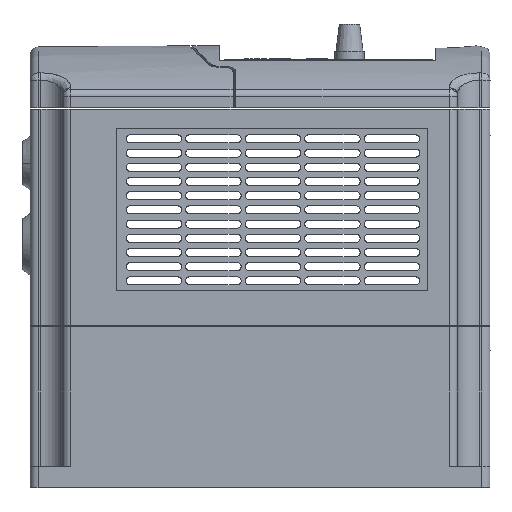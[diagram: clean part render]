
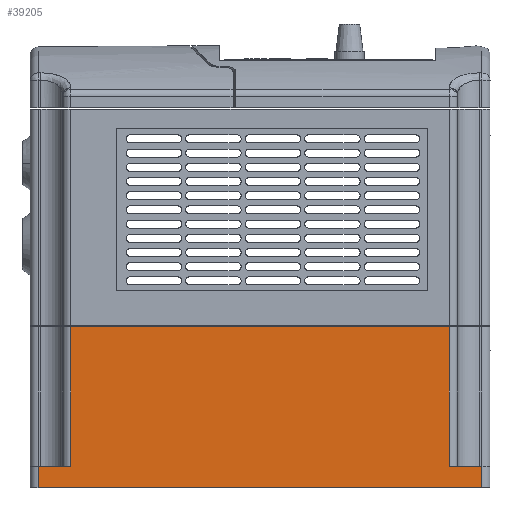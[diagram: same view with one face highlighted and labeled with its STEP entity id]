
A CAD part, left-side view. The second image highlights one B-rep face of the part: STEP entity #39205.
In plain terms, the highlighted planar face has unit normal (-1, 0, 0).
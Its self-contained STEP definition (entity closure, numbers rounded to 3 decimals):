
#4375=FACE_OUTER_BOUND('',#5904,.T.);
#5904=EDGE_LOOP('',(#35701,#35702,#35703,#35704,#35705,#35706,#35707,#35708));
#10699=LINE('',#103242,#15379);
#10700=LINE('',#103244,#15380);
#10701=LINE('',#103246,#15381);
#10702=LINE('',#103248,#15382);
#10703=LINE('',#103250,#15383);
#10704=LINE('',#103252,#15384);
#10705=LINE('',#103254,#15385);
#10706=LINE('',#103255,#15386);
#15379=VECTOR('',#51318,10.);
#15380=VECTOR('',#51319,10.);
#15381=VECTOR('',#51320,10.);
#15382=VECTOR('',#51321,10.);
#15383=VECTOR('',#51322,10.);
#15384=VECTOR('',#51323,10.);
#15385=VECTOR('',#51324,10.);
#15386=VECTOR('',#51325,10.);
#21741=VERTEX_POINT('',#103240);
#21742=VERTEX_POINT('',#103241);
#21743=VERTEX_POINT('',#103243);
#21744=VERTEX_POINT('',#103245);
#21745=VERTEX_POINT('',#103247);
#21746=VERTEX_POINT('',#103249);
#21747=VERTEX_POINT('',#103251);
#21748=VERTEX_POINT('',#103253);
#28721=EDGE_CURVE('',#21741,#21742,#10699,.T.);
#28722=EDGE_CURVE('',#21742,#21743,#10700,.T.);
#28723=EDGE_CURVE('',#21743,#21744,#10701,.T.);
#28724=EDGE_CURVE('',#21744,#21745,#10702,.T.);
#28725=EDGE_CURVE('',#21745,#21746,#10703,.T.);
#28726=EDGE_CURVE('',#21746,#21747,#10704,.T.);
#28727=EDGE_CURVE('',#21747,#21748,#10705,.T.);
#28728=EDGE_CURVE('',#21748,#21741,#10706,.T.);
#35701=ORIENTED_EDGE('',*,*,#28721,.T.);
#35702=ORIENTED_EDGE('',*,*,#28722,.T.);
#35703=ORIENTED_EDGE('',*,*,#28723,.T.);
#35704=ORIENTED_EDGE('',*,*,#28724,.T.);
#35705=ORIENTED_EDGE('',*,*,#28725,.T.);
#35706=ORIENTED_EDGE('',*,*,#28726,.T.);
#35707=ORIENTED_EDGE('',*,*,#28727,.T.);
#35708=ORIENTED_EDGE('',*,*,#28728,.T.);
#38140=PLANE('',#43742);
#39205=ADVANCED_FACE('',(#4375),#38140,.T.);
#43742=AXIS2_PLACEMENT_3D('',#103239,#51316,#51317);
#51316=DIRECTION('center_axis',(-1.,0.,0.));
#51317=DIRECTION('ref_axis',(0.,0.,1.));
#51318=DIRECTION('',(0.,0.,1.));
#51319=DIRECTION('',(0.,1.,0.));
#51320=DIRECTION('',(0.,0.,-1.));
#51321=DIRECTION('',(0.,1.,0.));
#51322=DIRECTION('',(0.,0.,-1.));
#51323=DIRECTION('',(0.,-1.,0.));
#51324=DIRECTION('',(0.,0.,1.));
#51325=DIRECTION('',(0.,1.,0.));
#103239=CARTESIAN_POINT('Origin',(-62.5,0.,-2.976));
#103240=CARTESIAN_POINT('',(-62.5,-70.,8.));
#103241=CARTESIAN_POINT('',(-62.5,-70.,59.517));
#103242=CARTESIAN_POINT('',(-62.5,-70.,8.));
#103243=CARTESIAN_POINT('',(-62.5,70.,59.517));
#103244=CARTESIAN_POINT('',(-62.5,-70.,59.517));
#103245=CARTESIAN_POINT('',(-62.5,70.,8.));
#103246=CARTESIAN_POINT('',(-62.5,70.,59.517));
#103247=CARTESIAN_POINT('',(-62.5,82.,8.));
#103248=CARTESIAN_POINT('',(-62.5,70.,8.));
#103249=CARTESIAN_POINT('',(-62.5,82.,0.));
#103250=CARTESIAN_POINT('',(-62.5,82.,8.));
#103251=CARTESIAN_POINT('',(-62.5,-82.,0.));
#103252=CARTESIAN_POINT('',(-62.5,82.,0.));
#103253=CARTESIAN_POINT('',(-62.5,-82.,8.));
#103254=CARTESIAN_POINT('',(-62.5,-82.,0.));
#103255=CARTESIAN_POINT('',(-62.5,-82.,8.));
